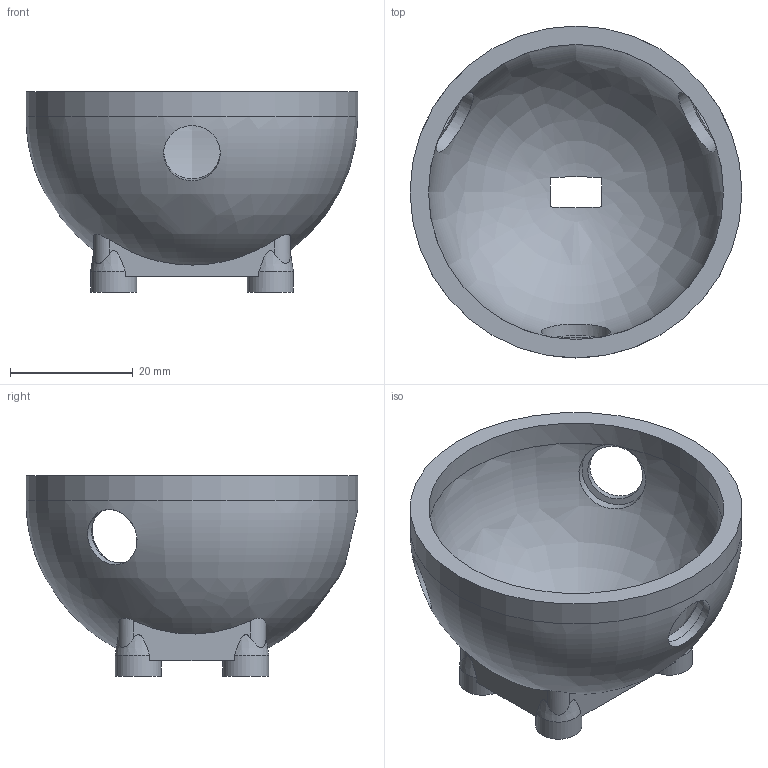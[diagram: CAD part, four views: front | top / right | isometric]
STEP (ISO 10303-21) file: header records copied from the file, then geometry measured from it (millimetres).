
FILE_DESCRIPTION(('Open CASCADE Model'),'2;1');
FILE_NAME('Open CASCADE Shape Model','2026-06-04T07:56:34',('Author'),( 'Open CASCADE'),'Open CASCADE STEP processor 7.6','Open CASCADE 7.6' ,'Unknown');
FILE_SCHEMA(('AP242_MANAGED_MODEL_BASED_3D_ENGINEERING_MIM_LF. {1 0 10303 442 1 1 4 }'));
Length unit declared in the file: millimetre
Products named in the file (1): Open CASCADE STEP translator 7.6 5
Bounding box: 54 x 54 x 32.6 mm (x, y, z)
Volume: 14766.2 mm3; surface area: 10790.5 mm2
Topology: 1 solids, 1 shells, 56 faces, 149 edges, 100 vertices
Faces by surface type: cylinder 24, plane 22, bspline 4, cone 4, revolution 2
Full cylindrical faces by diameter (mm): 3.5 x4, 7.5 x4, 9.2 x3, 11.2 x3, 48 x1, 54 x1
Entity records: 7697 total; most frequent: CARTESIAN_POINT 4846, DIRECTION 486, ORIENTED_EDGE 298, PCURVE 298, DEFINITIONAL_REPRESENTATION 298, LINE 236, VECTOR 236, EDGE_CURVE 149
